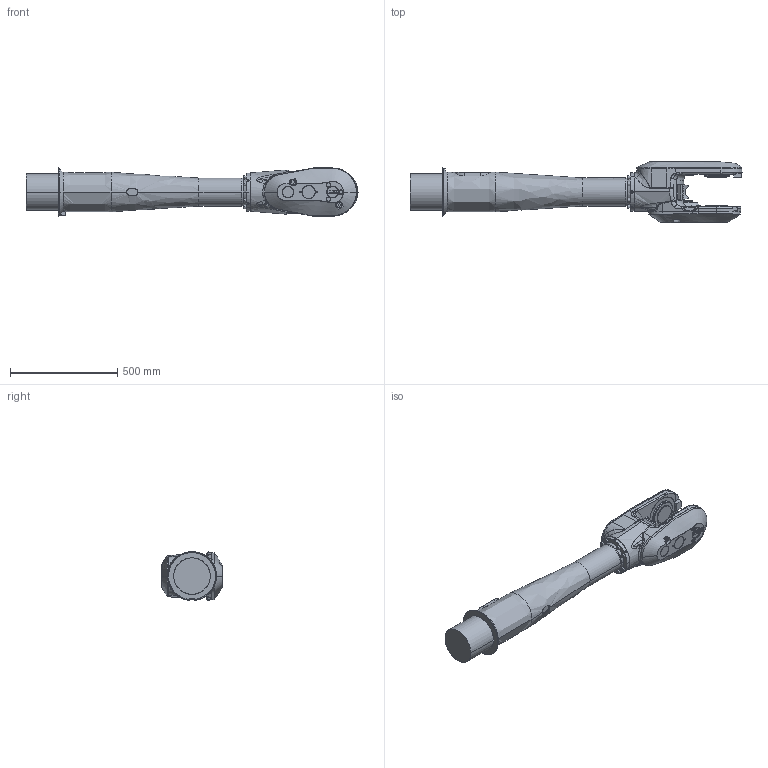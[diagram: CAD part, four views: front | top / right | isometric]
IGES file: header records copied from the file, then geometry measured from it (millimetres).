
Start section: SolidWorks IGES file using analytic representation for surfaces
Global section: file name: C:\Users\SEALDUN\OneDrive - ABB\Documents\R&D Robotics\Work Items\WI 632927\IGES\IRB5710-LID-SW_70kg-270_OC_02_IGES_J\IRB5710-LID_70kg-270_OmniCore_rev00_LINK04_CAD.igs; native system: SolidWorks 2024; preprocessor: SolidWorks 2024; author: SEALDUN; date: 250707.155301; units: millimetre
Bounding box: 1548.48 x 285 x 227.17 mm (x, y, z)
Surface area: 1150156.7 mm2 (no closed solid volume)
Topology: 0 solids, 0 shells, 815 faces, 11102 edges, 11071 vertices
Faces by surface type: bspline 499, revolution 316
